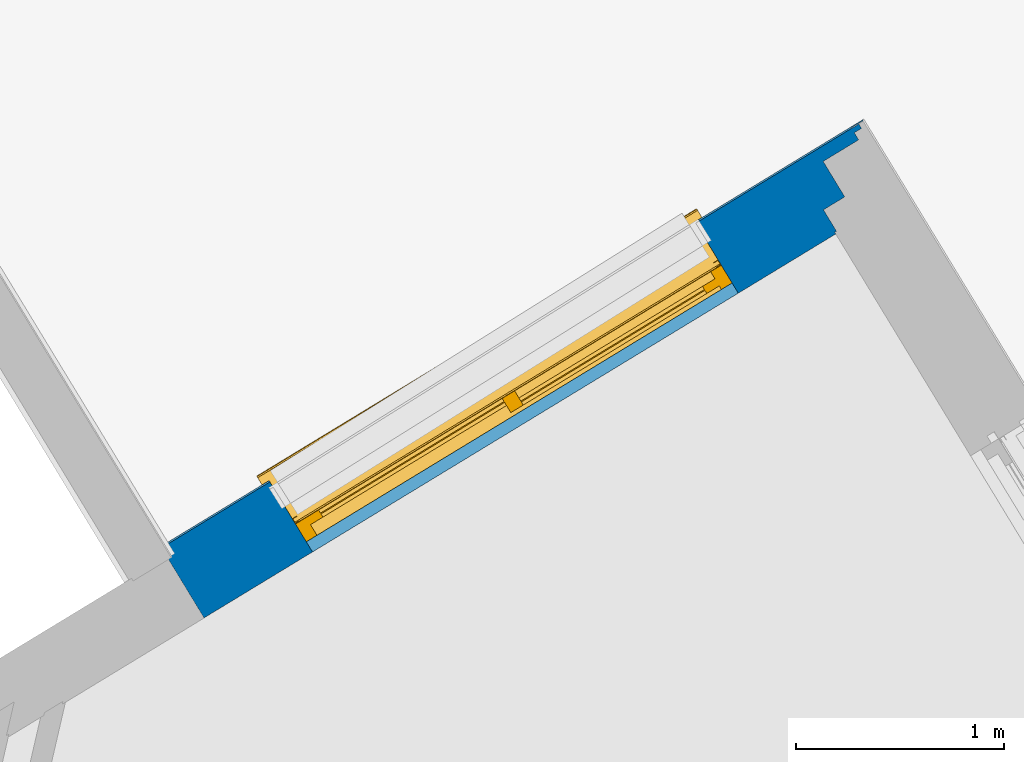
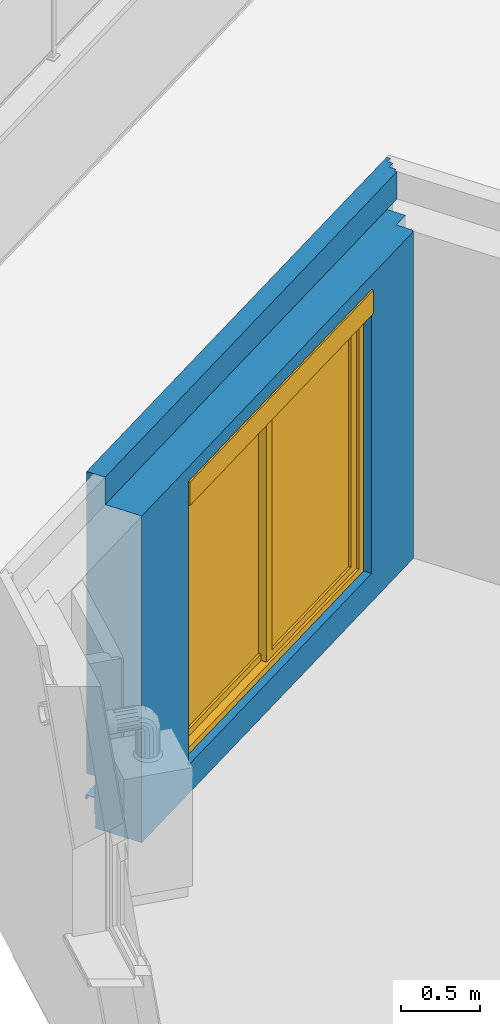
# One storey, part 31 of 91: 1 wall, 1 window, 1 opening.
"""IFC2X3 building model written with IfcOpenShell, lengths in metres."""

from ifc_helpers import new_model, entity, si_unit, converted_unit, derived_unit, money_unit, direction, frame, origin_with_axes, place, context, subcontext, project, spatial, open_shell, faceted_brep, surface_model, source, transform, mapped, material, material_list, type_object, element, fill, save


model = new_model("IFC2X3")

# Units and contexts
model_context = context("Model", 3, precision=1e-05, world=origin_with_axes(), true_north=direction((0.0, 1.0)))
body_context = subcontext(model_context, "Body", "Model", "MODEL_VIEW")
ifc_project = project(units=[si_unit("LENGTHUNIT", "METRE"), si_unit("AREAUNIT", "SQUARE_METRE"), si_unit("VOLUMEUNIT", "CUBIC_METRE"), converted_unit("PLANEANGLEUNIT", "DEGREE", entity("IfcPlaneAngleMeasure", 0.0174532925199), si_unit("PLANEANGLEUNIT", "RADIAN"), dimensions=[0, 0, 0, 0, 0, 0, 0]), si_unit("SOLIDANGLEUNIT", "STERADIAN"), money_unit("EUR"), converted_unit("TIMEUNIT", "Year", entity("IfcTimeMeasure", 31556926.0), si_unit("TIMEUNIT", "SECOND"), dimensions=[0, 0, 1, 0, 0, 0, 0]), si_unit("MASSUNIT", "GRAM", prefix="KILO"), si_unit("THERMODYNAMICTEMPERATUREUNIT", "DEGREE_CELSIUS"), si_unit("LUMINOUSINTENSITYUNIT", "LUMEN"), si_unit("ENERGYUNIT", "JOULE", prefix="MEGA"), derived_unit("THERMALCONDUCTANCEUNIT", [(si_unit("POWERUNIT", "WATT"), 1), (si_unit("LENGTHUNIT", "METRE"), -1), (si_unit("THERMODYNAMICTEMPERATUREUNIT", "KELVIN"), -1)]), derived_unit("SPECIFICHEATCAPACITYUNIT", [(si_unit("ENERGYUNIT", "JOULE"), 1), (si_unit("MASSUNIT", "GRAM", prefix="KILO"), -1), (si_unit("THERMODYNAMICTEMPERATUREUNIT", "KELVIN"), -1)]), derived_unit("MASSDENSITYUNIT", [(si_unit("MASSUNIT", "GRAM", prefix="KILO"), 1), (si_unit("VOLUMEUNIT", "CUBIC_METRE"), -1)])], contexts=[model_context])

# Site, building, storey
site_placement = place(None, origin_with_axes())
site = spatial("IfcSite", under=ifc_project, at=site_placement, Name="Site", CompositionType="ELEMENT")
building_placement = place(site_placement, origin_with_axes())
building = spatial("IfcBuilding", under=site, at=building_placement, Name="Bâtiment", CompositionType="ELEMENT")
storey_placement = place(building_placement, frame((0.0, 0.0, 5.44), z_axis=(0.0, 0.0, 1.0), x_axis=(1.0, 0.0, 0.0)))
storey = spatial("IfcBuildingStorey", under=building, at=storey_placement, Name="R+2", CompositionType="ELEMENT", Elevation=5.44)

# Wall, opening, window
ifc_material_1 = material(Name="Finition int - Plaque de plâtre")
ifc_material_2 = material(Name="Isolation - Polystyrène extrudé")
ifc_material_3 = material(Name="Bloc ELITHERM")
ifc_material_4 = material(Name="Isolation - Polystyrène expansé")
ifc_material_5 = material(Name="Mortier")
ifc_material_6 = material(Name="Béton cellulaire")
ifc_material_7 = material(Name="Etanchéité - Bitume")
ifc_material_8 = material(Name="Bois - Lattage")
ifc_material_9 = material(Name="Finition ext - Bardage bois")
ifc_material_10 = material(Name="Métal - Aluminium")
ifc_material_list = material_list([ifc_material_1, ifc_material_2, ifc_material_3, ifc_material_4, ifc_material_5, ifc_material_6, ifc_material_7, ifc_material_8, ifc_material_9, ifc_material_10])
wall_type = type_object("IfcWallType", Name="Mur ALKERN + planelle 21 BARDAGE TERRASSE 403 x 2720", PredefinedType="USERDEFINED")
wall_placement = place(storey_placement, frame((-2.41565138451, 20.3957772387, -3.1968383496e-10), z_axis=(0.0, 0.0, 1.0), x_axis=(-0.854539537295, -0.519386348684, 0.0)))
wall = element("IfcWall", 1, at=wall_placement, inside=storey, type_object=wall_type, material=ifc_material_list, Name="Mue bloc ALKERN isolé", ObjectType="SOLIDWALL", context=body_context, shape_type="Brep", body=[
    faceted_brep([(0.410000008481, 0.395000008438, 2.51000000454), (3.97122723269, 0.395000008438, 2.51000000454), (3.97122723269, 0.395000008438, 0.0), (0.410000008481, 0.395000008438, 3.1968383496e-10), (0.410000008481, 0.395000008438, 0.109999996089), (0.410000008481, 0.395000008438, 0.20000000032), (0.410000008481, 0.395000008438, 0.229999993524), (0.410000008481, 0.395000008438, 0.399999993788), (3.35945904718, 0.395000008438, 2.22), (3.35945904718, 0.395000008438, 2.4), (0.959459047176, 0.395000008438, 2.4), (0.959459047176, 0.395000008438, 2.22), (0.959459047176, 0.395000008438, 0.22), (3.35945904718, 0.395000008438, 0.22), (0.410000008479, 0.384999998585, 2.51000000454), (3.97122723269, 0.384999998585, 2.51000000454), (3.97122723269, 0.384999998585, 0.0), (0.410000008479, 0.384999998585, 3.1968383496e-10), (0.410000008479, 0.384999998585, 0.109999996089), (0.410000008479, 0.384999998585, 0.20000000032), (0.410000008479, 0.384999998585, 0.229999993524), (0.410000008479, 0.384999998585, 0.399999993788), (3.35945904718, 0.384999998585, 2.22), (3.35945904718, 0.384999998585, 2.4), (0.959459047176, 0.384999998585, 2.4), (0.959459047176, 0.384999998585, 2.22), (0.959459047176, 0.384999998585, 0.22), (3.35945904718, 0.384999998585, 0.22)], [[[0, 1, 2, 3, 4, 5, 6, 7], [8, 9, 10, 11, 12, 13]], [[14, 15, 1, 0]], [[2, 1, 15, 16]], [[3, 2, 16, 17]], [[4, 3, 17, 18]], [[5, 4, 18, 19]], [[6, 5, 19, 20]], [[7, 6, 20, 21]], [[0, 7, 21, 14]], [[9, 8, 22, 23]], [[10, 9, 23, 24]], [[11, 10, 24, 25]], [[11, 25, 26, 12]], [[12, 26, 27, 13]], [[22, 8, 13, 27]], [[21, 20, 19, 18, 17, 16, 15, 14], [23, 22, 27, 26, 25, 24]]]),
    faceted_brep([(0.959459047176, 0.264999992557, 0.22), (0.959459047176, 0.278311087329, 0.22), (0.959459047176, 0.384999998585, 0.22), (0.959459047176, 0.384999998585, 2.22), (0.959459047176, 0.264999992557, 2.22), (0.959459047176, 0.264999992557, 0.16), (0.959459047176, 0.278311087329, 0.16), (3.35945904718, 0.278311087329, 0.22), (3.35945904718, 0.384999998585, 0.22), (0.399999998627, 0.384999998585, 0.20000000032), (0.399999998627, 0.384999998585, 0.229999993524), (0.399999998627, 0.384999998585, 0.399999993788), (0.399999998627, 0.384999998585, 2.51000000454), (3.97122723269, 0.384999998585, 2.51000000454), (3.97122723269, 0.384999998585, 0.0), (0.399999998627, 0.384999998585, 3.1968383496e-10), (0.399999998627, 0.384999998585, 0.109999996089), (3.35945904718, 0.384999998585, 2.22), (3.35945904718, 0.384999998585, 2.4), (0.959459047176, 0.384999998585, 2.4), (0.959459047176, 0.264999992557, 2.4), (3.97122723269, 0.264999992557, 0.0), (3.97122723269, 0.264999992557, 2.51000000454), (0.399999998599, 0.264999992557, 2.51000000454), (0.399999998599, 0.264999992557, 0.399999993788), (0.399999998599, 0.264999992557, 0.229999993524), (0.399999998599, 0.264999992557, 0.20000000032), (0.399999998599, 0.264999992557, 0.109999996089), (0.399999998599, 0.264999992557, 3.1968383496e-10), (3.35945904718, 0.264999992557, 2.4), (3.35945904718, 0.264999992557, 2.22), (3.35945904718, 0.264999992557, 0.22), (3.35945904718, 0.264999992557, 0.16), (3.35945904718, 0.278311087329, 0.16)], [[[0, 1, 2, 3, 4]], [[1, 0, 5, 6]], [[1, 7, 8, 2]], [[9, 10, 11, 12, 13, 14, 15, 16], [3, 2, 8, 17, 18, 19]], [[19, 20, 4, 3]], [[21, 22, 23, 24, 25, 26, 27, 28], [5, 0, 4, 20, 29, 30, 31, 32]], [[5, 32, 33, 6]], [[7, 1, 6, 33]], [[7, 31, 30, 17, 8]], [[9, 26, 25, 10]], [[10, 25, 24, 11]], [[11, 24, 23, 12]], [[22, 13, 12, 23]], [[22, 21, 14, 13]], [[14, 21, 28, 15]], [[15, 28, 27, 16]], [[16, 27, 26, 9]], [[17, 30, 29, 18]], [[18, 29, 20, 19]], [[31, 7, 33, 32]]]),
    faceted_brep([(0.959459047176, 0.237311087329, 0.22), (0.959459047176, 0.26500000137, 0.22), (0.959459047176, 0.264999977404, 2.22), (0.959459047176, 0.237311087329, 2.22), (0.959459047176, 0.265000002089, 0.16), (0.959459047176, 0.0650000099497, 0.22), (0.959459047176, 0.0650000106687, 0.16), (3.97122723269, 0.264999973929, 0.0), (0.279999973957, 0.264999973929, 3.1968383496e-10), (0.279999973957, 0.265000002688, 0.109999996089), (0.279999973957, 0.265000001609, 0.20000000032), (0.279999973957, 0.26500000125, 0.229999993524), (0.279999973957, 0.264999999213, 0.399999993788), (0.279999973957, 0.264999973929, 2.50999999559), (3.97122723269, 0.264999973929, 2.50999999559), (3.35945904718, 0.265000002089, 0.16), (3.35945904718, 0.26500000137, 0.22), (3.35945904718, 0.264999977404, 2.22), (3.35945904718, 0.264999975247, 2.4), (0.959459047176, 0.264999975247, 2.4), (0.959459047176, 0.207311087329, 2.4), (0.959459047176, 0.207311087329, 2.22), (0.959459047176, 0.0649999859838, 2.22), (0.27999997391, 0.0650000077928, 0.399999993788), (0.27999997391, 0.0650000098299, 0.229999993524), (0.27999997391, 0.0650000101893, 0.20000000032), (0.27999997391, 0.0650000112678, 0.109999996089), (3.97122723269, 0.0650000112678, 0.109999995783), (3.97122723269, 0.0649999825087, 2.50999999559), (0.27999997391, 0.0649999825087, 2.50999999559), (3.35945904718, 0.0649999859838, 2.22), (3.35945904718, 0.0650000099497, 0.22), (3.35945904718, 0.0650000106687, 0.16), (3.97059984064, 0.0653923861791, 3.19684723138e-10), (0.27999997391, 0.0650201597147, 3.19684723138e-10), (3.97122723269, 0.0649999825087, 0.0), (3.97059981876, 0.0649999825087, 3.19684723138e-10), (0.27999997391, 0.0650201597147, 0.10000000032), (0.27999997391, 0.0650000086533, 0.10000000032), (0.279999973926, 0.133000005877, 2.50999999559), (3.97122723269, 0.133000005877, 2.50999999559), (3.35945904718, 0.237311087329, 0.22), (3.35945904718, 0.237311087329, 2.22), (3.35945904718, 0.207311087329, 2.22), (3.35945904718, 0.207311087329, 2.4), (3.97059981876, 0.0650000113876, 0.10000000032), (3.97059984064, 0.0653923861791, 0.10000000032)], [[[0, 1, 2, 3]], [[4, 1, 0, 5, 6]], [[7, 8, 9, 10, 11, 12, 13, 14], [15, 16, 17, 18, 19, 2, 1, 4]], [[20, 21, 3, 2, 19]], [[5, 0, 3, 21, 22]], [[23, 24, 25, 26, 27, 28, 29], [6, 5, 22, 30, 31, 32]], [[15, 4, 6, 32]], [[33, 34, 8, 7, 35, 36]], [[37, 38, 26, 9, 8, 34]], [[26, 25, 10, 9]], [[25, 24, 11, 10]], [[24, 23, 12, 11]], [[12, 23, 29, 39, 13]], [[14, 13, 39, 40]], [[14, 40, 28, 27, 35, 7]], [[41, 16, 15, 32, 31]], [[16, 41, 42, 17]], [[42, 43, 44, 18, 17]], [[18, 44, 20, 19]], [[21, 20, 44, 43]], [[43, 30, 22, 21]], [[45, 36, 35, 27, 26, 38]], [[40, 39, 29, 28]], [[41, 31, 30, 43, 42]], [[37, 34, 33, 46]], [[33, 36, 45, 46]], [[38, 37, 46, 45]]]),
    faceted_brep([(3.97122723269, 0.133000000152, 2.5200000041), (0.148000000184, 0.133000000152, 2.5200000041), (0.148000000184, 0.133000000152, 2.72000000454), (3.97122723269, 0.133000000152, 2.72000000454), (3.97122723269, 0.113000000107, 2.5200000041), (0.148000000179, 0.113000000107, 2.5200000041), (0.148000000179, 0.113000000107, 2.72000000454), (3.97122723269, 0.113000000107, 2.72000000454)], [[[0, 1, 2, 3]], [[4, 5, 1, 0]], [[5, 6, 2, 1]], [[3, 2, 6, 7]], [[4, 0, 3, 7]], [[7, 6, 5, 4]]]),
    faceted_brep([(0.148000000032, 0.133, 2.51000000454), (0.148000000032, 0.133, 2.52000000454), (3.97122723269, 0.133, 2.52000000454), (3.97122723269, 0.133, 2.51000000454), (0.148000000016, 0.065, 2.52000000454), (0.148000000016, 0.065, 2.51000000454), (3.97122723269, 0.065, 2.52000000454), (3.97122723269, 0.065, 2.51000000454)], [[[0, 1, 2, 3]], [[4, 1, 0, 5]], [[1, 4, 6, 2]], [[7, 3, 2, 6]], [[5, 0, 3, 7]], [[4, 5, 7, 6]]]),
    faceted_brep([(0.127999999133, 0.112999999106, 2.5200000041), (0.127999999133, 0.112999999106, 2.72000000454), (3.97122723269, 0.112999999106, 2.72000000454), (3.97122723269, 0.112999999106, 2.5200000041), (0.127999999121, 0.065, 2.72000000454), (0.127999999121, 0.065, 2.5200000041), (3.97122723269, 0.065, 2.72000000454), (3.97122723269, 0.065, 2.5200000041)], [[[0, 1, 2, 3]], [[4, 1, 0, 5]], [[1, 4, 6, 2]], [[6, 7, 3, 2]], [[5, 0, 3, 7]], [[4, 5, 7, 6]]]),
    faceted_brep([(0.959459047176, 0.0550000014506, 0.22), (0.959459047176, 0.0649999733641, 0.22), (0.959459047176, 0.0649999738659, 0.230000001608), (0.959459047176, 0.0550000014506, 0.230000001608), (0.959459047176, 0.0649999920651, 0.16), (0.959459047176, 0.0550000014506, 0.16), (3.35945904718, 0.0649999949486, 0.16), (3.35945904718, 0.0649999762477, 0.22), (3.35945904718, 0.0649999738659, 0.230000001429), (3.97122723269, 0.0649999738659, 0.230000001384), (3.97122723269, 0.0650000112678, 0.109999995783), (0.0800000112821, 0.0650000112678, 0.109999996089), (0.0799999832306, 0.0649999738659, 0.20000000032), (0.0799999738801, 0.0649999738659, 0.230000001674), (0.0799999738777, 0.0550000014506, 0.230000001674), (0.0799999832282, 0.0550000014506, 0.20000000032), (0.0800000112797, 0.0550000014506, 0.109999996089), (3.97122723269, 0.0550000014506, 0.109999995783), (3.97122723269, 0.0550000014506, 0.230000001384), (3.35945904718, 0.0550000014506, 0.230000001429), (3.35945904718, 0.0550000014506, 0.22), (3.35945904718, 0.0550000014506, 0.16)], [[[0, 1, 2, 3]], [[4, 1, 0, 5]], [[6, 7, 8, 9, 10, 11, 12, 13, 2, 1, 4]], [[2, 13, 14, 3]], [[5, 0, 3, 14, 15, 16, 17, 18, 19, 20, 21]], [[6, 4, 5, 21]], [[20, 7, 6, 21]], [[7, 20, 19, 8]], [[19, 18, 9, 8]], [[18, 17, 10, 9]], [[16, 11, 10, 17]], [[15, 12, 11, 16]], [[13, 12, 15, 14]]]),
    faceted_brep([(3.35945904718, 0.0649999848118, 0.399999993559), (3.35945904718, 0.0650000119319, 2.22), (0.959459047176, 0.0650000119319, 2.22), (0.959459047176, 0.0649999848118, 0.399999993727), (0.0799999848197, 0.0649999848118, 0.399999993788), (0.0800000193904, 0.0650000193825, 2.72000000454), (3.97122723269, 0.0650000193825, 2.72000000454), (3.97122723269, 0.0649999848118, 0.399999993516), (3.35945904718, 0.0600000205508, 0.399999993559), (3.35945904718, 0.0249999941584, 0.399999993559), (3.35945904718, 0.0249999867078, 2.22), (0.959459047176, 0.0249999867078, 2.22), (0.959459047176, 0.0249999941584, 0.399999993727), (0.959459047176, 0.0600000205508, 0.399999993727), (0.0799999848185, 0.0600000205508, 0.399999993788), (0.0799999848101, 0.0249999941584, 0.399999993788), (0.0800000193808, 0.0249999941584, 2.72000000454), (3.97122723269, 0.0249999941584, 2.72000000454), (3.97122723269, 0.0249999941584, 0.399999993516), (3.97122723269, 0.0600000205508, 0.399999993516)], [[[0, 1, 2, 3, 4, 5, 6, 7]], [[1, 0, 8, 9, 10]], [[2, 1, 10, 11]], [[3, 2, 11, 12, 13]], [[3, 13, 14, 4]], [[5, 4, 14, 15, 16]], [[5, 16, 17, 6]], [[6, 17, 18, 19, 7]], [[8, 0, 7, 19]], [[9, 8, 19, 18]], [[10, 9, 18, 17, 16, 15, 12, 11]], [[13, 12, 15, 14]]]),
    faceted_brep([(3.35945904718, 0.025, 0.40000000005), (3.35945904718, 0.025, 2.22), (0.959459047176, 0.025, 2.22), (0.959459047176, 0.025, 0.400000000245), (0.040000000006, 0.025, 0.40000000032), (0.040000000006, 0.025, 2.72000000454), (3.97122723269, 0.025, 2.72000000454), (3.97122723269, 0.025, 0.4), (3.35945904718, 0.0, 0.40000000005), (3.35945904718, 0.0, 2.22), (0.959459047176, 0.0, 2.22), (0.959459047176, 0.0, 0.400000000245), (0.04, 0.0, 0.40000000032), (0.04, 0.0, 2.72000000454), (3.97122723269, 0.0, 2.72000000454), (3.97122723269, 0.0, 0.4)], [[[0, 1, 2, 3, 4, 5, 6, 7]], [[1, 0, 8, 9]], [[2, 1, 9, 10]], [[3, 2, 10, 11]], [[3, 11, 12, 4]], [[13, 5, 4, 12]], [[5, 13, 14, 6]], [[14, 15, 7, 6]], [[8, 0, 7, 15]], [[9, 8, 15, 14, 13, 12, 11, 10]]]),
    faceted_brep([(3.35945904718, -0.00268891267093, 0.200000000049), (3.35945904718, -0.00268891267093, 0.22), (3.35945904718, -0.00268891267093, 0.230000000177), (3.97122723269, -0.00268891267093, 0.23), (3.97122723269, -0.00268891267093, 0.2), (3.35945904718, -0.00768891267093, 0.200000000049), (3.35945904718, -0.00768891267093, 0.22), (3.35945904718, -0.00768891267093, 0.235000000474), (3.35945904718, 0.06, 0.235000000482), (3.35945904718, 0.06, 0.40000000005), (3.35945904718, 0.065, 0.40000000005), (3.35945904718, 0.065, 0.230000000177), (3.35945904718, 0.0550000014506, 0.230000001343), (3.97122723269, 0.0550000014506, 0.230000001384), (3.97122723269, 0.06, 0.4), (3.97122723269, 0.06, 0.235), (3.97122723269, -0.00768891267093, 0.235), (3.97122723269, -0.00768891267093, 0.2), (3.97122723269, 0.065, 0.23), (3.97122723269, 0.065, 0.4)], [[[0, 1, 2, 3, 4]], [[1, 0, 5, 6, 7, 8, 9, 10, 11, 12, 2]], [[12, 13, 3, 2]], [[14, 15, 16, 17, 4, 3, 13, 18, 19]], [[5, 0, 4, 17]], [[6, 5, 17, 16, 7]], [[7, 16, 15, 8]], [[8, 15, 14, 9]], [[9, 14, 19, 10]], [[10, 19, 18, 11]], [[11, 18, 13, 12]]]),
    faceted_brep([(0.959459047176, -0.00768891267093, 0.22), (0.959459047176, -0.00768891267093, 0.200000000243), (0.959459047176, -0.00268891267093, 0.200000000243), (0.959459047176, -0.00268891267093, 0.22), (0.959459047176, -0.00268891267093, 0.23000000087), (0.959459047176, 0.0550000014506, 0.230000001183), (0.959459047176, 0.065, 0.23000000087), (0.959459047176, 0.065, 0.400000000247), (0.959459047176, 0.06, 0.400000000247), (0.959459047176, 0.06, 0.235000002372), (0.959459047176, -0.00768891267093, 0.235000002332), (0.0799999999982, -0.00768891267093, 0.235000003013), (0.0799999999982, -0.00768891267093, 0.230000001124), (0.0700000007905, -0.00768891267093, 0.230000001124), (0.0123110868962, -0.00768891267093, 0.229999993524), (0.0123110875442, -0.00768891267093, 0.20000000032), (0.0123110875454, -0.00268891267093, 0.20000000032), (0.0123110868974, -0.00268891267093, 0.229999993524), (0.0700000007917, -0.00268891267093, 0.230000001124), (0.0799999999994, -0.00268891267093, 0.230000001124), (0.0800000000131, 0.0550000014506, 0.230000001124), (0.0800000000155, 0.065, 0.230000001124), (0.0800000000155, 0.065, 0.40000000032), (0.0800000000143, 0.06, 0.40000000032), (0.0800000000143, 0.06, 0.235000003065)], [[[0, 1, 2, 3, 4, 5, 6, 7, 8, 9, 10]], [[1, 0, 10, 11, 12, 13, 14, 15]], [[2, 1, 15, 16]], [[3, 2, 16, 17, 18, 19, 4]], [[4, 19, 20, 5]], [[5, 20, 21, 6]], [[6, 21, 22, 7]], [[7, 22, 23, 8]], [[8, 23, 24, 9]], [[9, 24, 11, 10]], [[21, 20, 19, 12, 11, 24, 23, 22]], [[13, 12, 19, 18]], [[14, 13, 18, 17]], [[16, 15, 14, 17]]]),
])
opening_placement = place(wall_placement, frame((2.15945904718, 0.0, 0.22), z_axis=(0.0, 0.0, 1.0), x_axis=(1.0, 0.0, 0.0)))
opening = element("IfcOpeningElement", 2, at=opening_placement, cuts=wall, Name="MEN 72", context=body_context, shape_type="Brep", body=[
    faceted_brep([(1.2, 0.237311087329, 0.0), (-1.2, 0.237311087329, 0.0), (-1.2, 0.885000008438, 0.0), (1.2, 0.885000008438, 0.0), (1.2, 0.237311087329, 2.0), (-1.2, 0.237311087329, 2.0), (-1.2, 0.885000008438, 2.0), (1.2, 0.885000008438, 2.0)], [[[0, 1, 2, 3]], [[0, 4, 5, 1]], [[1, 5, 6, 2]], [[3, 2, 6, 7]], [[4, 0, 3, 7]], [[5, 4, 7, 6]]]),
    faceted_brep([(1.2, 0.237311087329, 0.0), (1.2, 0.237311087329, 2.0), (1.2, -0.41037783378, 2.0), (1.2, -0.41037783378, 0.0), (-1.2, 0.237311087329, 0.0), (-1.2, 0.237311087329, 2.0), (-1.2, -0.41037783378, 2.0), (-1.2, -0.41037783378, 0.0)], [[[0, 1, 2, 3]], [[0, 4, 5, 1]], [[1, 5, 6, 2]], [[3, 2, 6, 7]], [[4, 0, 3, 7]], [[5, 4, 7, 6]]]),
    faceted_brep([(1.2, 0.237311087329, 0.0), (1.2, 0.237311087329, 2.0), (1.2, -0.41037783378, 2.0), (1.2, -0.41037783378, 0.0), (-1.2, 0.237311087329, 0.0), (-1.2, 0.237311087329, 2.0), (-1.2, -0.41037783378, 2.0), (-1.2, -0.41037783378, 0.0)], [[[0, 1, 2, 3]], [[0, 4, 5, 1]], [[1, 5, 6, 2]], [[3, 2, 6, 7]], [[4, 0, 3, 7]], [[5, 4, 7, 6]]]),
    faceted_brep([(1.2, 0.207311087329, 2.0), (-1.2, 0.207311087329, 2.0), (-1.2, 0.855000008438, 2.0), (1.2, 0.855000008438, 2.0), (1.2, 0.207311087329, 2.18), (-1.2, 0.207311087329, 2.18), (-1.2, 0.855000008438, 2.18), (1.2, 0.855000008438, 2.18)], [[[0, 1, 2, 3]], [[0, 4, 5, 1]], [[1, 5, 6, 2]], [[3, 2, 6, 7]], [[4, 0, 3, 7]], [[5, 4, 7, 6]]]),
    faceted_brep([(1.2, 0.278311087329, 0.0), (-1.2, 0.278311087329, 0.0), (-1.2, -0.36937783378, 0.0), (1.2, -0.36937783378, 0.0), (1.2, 0.278311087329, -0.06), (-1.2, 0.278311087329, -0.06), (-1.2, -0.36937783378, -0.06), (1.2, -0.36937783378, -0.06)], [[[0, 1, 2, 3]], [[0, 4, 5, 1]], [[1, 5, 6, 2]], [[3, 2, 6, 7]], [[4, 0, 3, 7]], [[5, 4, 7, 6]]]),
])
window_style = type_object("IfcWindowStyle", Name="Baie générique 2017 v2", ConstructionType="NOTDEFINED", OperationType="NOTDEFINED", ParameterTakesPrecedence=False, Sizeable=False)
shared_shape = source(origin_with_axes(), body_context, "Body", "SurfaceModel", [
    faceted_brep([(1.2, 0.1, 0.0), (1.2, 0.0, 0.0), (-1.2, 0.0, 0.0), (-1.2, 0.1, 0.0), (1.2, 0.1, 2.0), (1.2, 0.0, 2.0), (-1.2, 0.0, 2.0), (1.14, 0.0, 0.05), (-1.14, 0.0, 0.05), (-1.14, 0.0, 1.95), (1.14, 0.0, 1.95), (-1.2, 0.1, 2.0), (1.14, 0.1, 0.05), (1.14, 0.1, 1.95), (-1.14, 0.1, 1.95), (-1.14, 0.1, 0.05)], [[[0, 1, 2, 3]], [[4, 5, 1, 0]], [[1, 5, 6, 2], [7, 8, 9, 10]], [[3, 2, 6, 11]], [[0, 3, 11, 4], [12, 13, 14, 15]], [[11, 6, 5, 4]], [[15, 8, 7, 12]], [[14, 9, 8, 15]], [[13, 10, 9, 14]], [[12, 7, 10, 13]]]),
    faceted_brep([(1.14, 0.04, 0.05), (-0.035, 0.04, 0.05), (-0.035, 0.04, 1.95), (1.14, 0.04, 1.95), (0.035, 0.04, 1.88), (0.035, 0.04, 0.1), (1.07, 0.04, 0.1), (1.07, 0.04, 1.88), (-0.035, 0.02, 0.05), (1.14, 0.02, 0.05), (1.14, 0.0, 0.05), (-0.035, 0.0, 0.05), (-0.035, 0.02, 1.95), (-0.035, 0.0, 1.95), (1.14, 0.0, 1.95), (1.14, 0.02, 1.95), (0.035, 0.0, 1.88), (0.035, 0.0, 0.1), (1.07, 0.0, 0.1), (1.07, 0.0, 1.88)], [[[0, 1, 2, 3], [4, 5, 6, 7]], [[8, 1, 0, 9, 10, 11]], [[12, 2, 1, 8, 11, 13]], [[13, 14, 15, 3, 2, 12]], [[14, 10, 9, 0, 3, 15]], [[4, 16, 17, 5]], [[17, 18, 6, 5]], [[18, 19, 7, 6]], [[7, 19, 16, 4]], [[13, 11, 10, 14], [17, 16, 19, 18]]]),
    surface_model("IfcShellBasedSurfaceModel", [(1.14, 0.04, 0.05), (-0.035, 0.04, 0.05), (-0.035, 0.04, 1.95), (1.14, 0.04, 1.95), (1.07, 0.04, 0.1), (1.07, 0.04, 1.88), (0.035, 0.04, 1.88), (0.035, 0.04, 0.1)], [open_shell([[[0, 1, 2, 3], [4, 5, 6, 7]]])]),
    surface_model("IfcShellBasedSurfaceModel", [(1.14, 0.0, 0.05), (-0.035, 0.0, 0.05), (-0.035, 0.0, 1.95), (1.14, 0.0, 1.95), (1.07, 0.0, 0.1), (1.07, 0.0, 1.88), (0.035, 0.0, 1.88), (0.035, 0.0, 0.1)], [open_shell([[[0, 1, 2, 3], [4, 5, 6, 7]]])]),
    faceted_brep([(1.07, 0.0225, 0.1), (1.07, 0.0175, 0.1), (0.035, 0.0175, 0.1), (0.035, 0.0225, 0.1), (1.07, 0.0225, 1.88), (1.07, 0.0175, 1.88), (0.035, 0.0175, 1.88), (0.035, 0.0225, 1.88)], [[[0, 1, 2, 3]], [[4, 5, 1, 0]], [[1, 5, 6, 2]], [[3, 2, 6, 7]], [[0, 3, 7, 4]], [[7, 6, 5, 4]]]),
    faceted_brep([(0.035, 0.08, 0.05), (-1.14, 0.08, 0.05), (-1.14, 0.08, 1.95), (0.035, 0.08, 1.95), (-1.07, 0.08, 1.88), (-1.07, 0.08, 0.1), (-0.035, 0.08, 0.1), (-0.035, 0.08, 1.88), (-1.14, 0.06, 0.05), (0.035, 0.06, 0.05), (0.035, 0.04, 0.05), (-1.14, 0.04, 0.05), (-1.14, 0.06, 1.95), (-1.14, 0.04, 1.95), (0.035, 0.04, 1.95), (0.035, 0.06, 1.95), (-1.07, 0.04, 1.88), (-1.07, 0.04, 0.1), (-0.035, 0.04, 0.1), (-0.035, 0.04, 1.88)], [[[0, 1, 2, 3], [4, 5, 6, 7]], [[8, 1, 0, 9, 10, 11]], [[12, 2, 1, 8, 11, 13]], [[13, 14, 15, 3, 2, 12]], [[14, 10, 9, 0, 3, 15]], [[4, 16, 17, 5]], [[17, 18, 6, 5]], [[18, 19, 7, 6]], [[7, 19, 16, 4]], [[13, 11, 10, 14], [17, 16, 19, 18]]]),
    surface_model("IfcShellBasedSurfaceModel", [(0.035, 0.08, 0.05), (-1.14, 0.08, 0.05), (-1.14, 0.08, 1.95), (0.035, 0.08, 1.95), (-0.035, 0.08, 0.1), (-0.035, 0.08, 1.88), (-1.07, 0.08, 1.88), (-1.07, 0.08, 0.1)], [open_shell([[[0, 1, 2, 3], [4, 5, 6, 7]]])]),
    surface_model("IfcShellBasedSurfaceModel", [(0.035, 0.04, 0.05), (-1.14, 0.04, 0.05), (-1.14, 0.04, 1.95), (0.035, 0.04, 1.95), (-0.035, 0.04, 0.1), (-0.035, 0.04, 1.88), (-1.07, 0.04, 1.88), (-1.07, 0.04, 0.1)], [open_shell([[[0, 1, 2, 3], [4, 5, 6, 7]]])]),
    faceted_brep([(-0.035, 0.0625, 0.1), (-0.035, 0.0575, 0.1), (-1.07, 0.0575, 0.1), (-1.07, 0.0625, 0.1), (-0.035, 0.0625, 1.88), (-0.035, 0.0575, 1.88), (-1.07, 0.0575, 1.88), (-1.07, 0.0625, 1.88)], [[[0, 1, 2, 3]], [[4, 5, 1, 0]], [[1, 5, 6, 2]], [[3, 2, 6, 7]], [[0, 3, 7, 4]], [[7, 6, 5, 4]]]),
    faceted_brep([(1.2, -0.03, 0.0), (1.2, -0.03, 2.0), (1.175, -0.03, 2.0), (1.175, -0.03, 0.0), (1.2, -0.002, 0.0), (1.2, -0.002, 2.0), (1.175, -0.002, 2.0), (1.175, -0.004, 2.0), (1.198, -0.004, 2.0), (1.198, -0.028, 2.0), (1.175, -0.028, 2.0), (1.175, -0.028, 0.0), (1.198, -0.028, 0.0), (1.198, -0.004, 0.0), (1.175, -0.004, 0.0), (1.175, -0.002, 0.0)], [[[0, 1, 2, 3]], [[4, 5, 1, 0]], [[1, 5, 6, 7, 8, 9, 10, 2]], [[3, 2, 10, 11]], [[0, 3, 11, 12, 13, 14, 15, 4]], [[15, 6, 5, 4]], [[14, 7, 6, 15]], [[13, 8, 7, 14]], [[12, 9, 8, 13]], [[11, 10, 9, 12]]]),
    faceted_brep([(-1.2, -0.03, 0.0), (-1.175, -0.03, 0.0), (-1.175, -0.03, 2.0), (-1.2, -0.03, 2.0), (-1.2, -0.002, 0.0), (-1.175, -0.002, 0.0), (-1.175, -0.004, 0.0), (-1.198, -0.004, 0.0), (-1.198, -0.028, 0.0), (-1.175, -0.028, 0.0), (-1.175, -0.028, 2.0), (-1.198, -0.028, 2.0), (-1.198, -0.004, 2.0), (-1.175, -0.004, 2.0), (-1.175, -0.002, 2.0), (-1.2, -0.002, 2.0)], [[[0, 1, 2, 3]], [[0, 4, 5, 6, 7, 8, 9, 1]], [[1, 9, 10, 2]], [[3, 2, 10, 11, 12, 13, 14, 15]], [[4, 0, 3, 15]], [[5, 4, 15, 14]], [[6, 5, 14, 13]], [[7, 6, 13, 12]], [[8, 7, 12, 11]], [[9, 8, 11, 10]]]),
    faceted_brep([(-1.198, -0.028, 2.0), (-1.198, -0.028, 2.178), (1.198, -0.028, 2.178), (1.198, -0.028, 2.0), (-1.198, -0.03, 2.0), (-1.198, -0.03, 2.18), (-1.198, 0.17, 2.18), (-1.198, 0.17, 2.0), (-1.198, 0.168, 2.0), (-1.198, 0.168, 2.178), (1.198, 0.168, 2.178), (1.198, 0.168, 2.0), (1.198, 0.17, 2.0), (1.198, 0.17, 2.18), (1.198, -0.03, 2.18), (1.198, -0.03, 2.0)], [[[0, 1, 2, 3]], [[0, 4, 5, 6, 7, 8, 9, 1]], [[1, 9, 10, 2]], [[3, 2, 10, 11, 12, 13, 14, 15]], [[4, 0, 3, 15]], [[5, 4, 15, 14]], [[6, 5, 14, 13]], [[7, 6, 13, 12]], [[8, 7, 12, 11]], [[9, 8, 11, 10]]]),
    faceted_brep([(-1.198, 0.0724697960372, 2.07436337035), (-1.198, 0.0555495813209, 2.07050144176), (-1.198, 0.041980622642, 2.08132232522), (-1.198, 0.041980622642, 2.09867767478), (-1.198, 0.0555495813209, 2.10949855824), (-1.198, 0.0724697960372, 2.10563662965), (-1.198, 0.08, 2.09), (1.198, 0.0724697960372, 2.07436337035), (1.198, 0.0555495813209, 2.07050144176), (1.198, 0.041980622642, 2.08132232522), (1.198, 0.041980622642, 2.09867767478), (1.198, 0.0555495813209, 2.10949855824), (1.198, 0.0724697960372, 2.10563662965), (1.198, 0.08, 2.09)], [[[0, 1, 2, 3, 4, 5, 6]], [[1, 0, 7, 8]], [[2, 1, 8, 9]], [[3, 2, 9, 10]], [[4, 3, 10, 11]], [[5, 4, 11, 12]], [[6, 5, 12, 13]], [[0, 6, 13, 7]], [[7, 13, 12, 11, 10, 9, 8]]]),
    faceted_brep([(-1.188, 0.130275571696, 2.05615706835), (-1.188, 0.108632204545, 2.02901714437), (-1.188, 0.0773566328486, 2.01395562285), (-1.188, 0.0426433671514, 2.01395562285), (-1.188, 0.011367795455, 2.02901714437), (-1.188, -0.0102755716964, 2.05615706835), (-1.188, -0.018, 2.09), (-1.188, -0.0102755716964, 2.12384293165), (-1.188, 0.011367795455, 2.15098285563), (-1.188, 0.0426433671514, 2.16604437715), (-1.188, 0.0773566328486, 2.16604437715), (-1.188, 0.108632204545, 2.15098285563), (-1.188, 0.130275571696, 2.12384293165), (-1.188, 0.138, 2.09), (1.188, 0.130275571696, 2.05615706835), (1.188, 0.108632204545, 2.02901714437), (1.188, 0.0773566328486, 2.01395562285), (1.188, 0.0426433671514, 2.01395562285), (1.188, 0.011367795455, 2.02901714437), (1.188, -0.0102755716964, 2.05615706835), (1.188, -0.018, 2.09), (1.188, -0.0102755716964, 2.12384293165), (1.188, 0.011367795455, 2.15098285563), (1.188, 0.0426433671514, 2.16604437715), (1.188, 0.0773566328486, 2.16604437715), (1.188, 0.108632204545, 2.15098285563), (1.188, 0.130275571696, 2.12384293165), (1.188, 0.138, 2.09)], [[[0, 1, 2, 3, 4, 5, 6, 7, 8, 9, 10, 11, 12, 13]], [[1, 0, 14, 15]], [[2, 1, 15, 16]], [[3, 2, 16, 17]], [[4, 3, 17, 18]], [[5, 4, 18, 19]], [[6, 5, 19, 20]], [[7, 6, 20, 21]], [[8, 7, 21, 22]], [[9, 8, 22, 23]], [[10, 9, 23, 24]], [[11, 10, 24, 25]], [[12, 11, 25, 26]], [[13, 12, 26, 27]], [[0, 13, 27, 14]], [[14, 27, 26, 25, 24, 23, 22, 21, 20, 19, 18, 17, 16, 15]]]),
    faceted_brep([(-1.2, 0.17, 2.0), (-1.2, 0.17, 2.18), (-1.198, 0.17, 2.18), (-1.198, 0.17, 2.0), (-1.2, -0.03, 2.0), (-1.2, -0.03, 2.18), (-1.198, -0.03, 2.18), (-1.198, -0.03, 2.0)], [[[0, 1, 2, 3]], [[0, 4, 5, 1]], [[1, 5, 6, 2]], [[3, 2, 6, 7]], [[4, 0, 3, 7]], [[5, 4, 7, 6]]]),
    faceted_brep([(1.198, 0.17, 2.0), (1.198, 0.17, 2.18), (1.2, 0.17, 2.18), (1.2, 0.17, 2.0), (1.198, -0.03, 2.0), (1.198, -0.03, 2.18), (1.2, -0.03, 2.18), (1.2, -0.03, 2.0)], [[[0, 1, 2, 3]], [[0, 4, 5, 1]], [[1, 5, 6, 2]], [[3, 2, 6, 7]], [[4, 0, 3, 7]], [[5, 4, 7, 6]]]),
    faceted_brep([(-1.198, -0.004, 2.0), (-1.198, 0.168, 2.0), (1.198, 0.168, 2.0), (1.198, -0.004, 2.0), (-1.198, -0.004, 2.002), (-1.198, 0.168, 2.002), (1.198, 0.168, 2.002), (1.198, -0.004, 2.002)], [[[0, 1, 2, 3]], [[0, 4, 5, 1]], [[1, 5, 6, 2]], [[3, 2, 6, 7]], [[4, 0, 3, 7]], [[5, 4, 7, 6]]]),
    faceted_brep([(-1.188, -0.006, 2.0), (-1.188, -0.006, 2.09), (1.188, -0.006, 2.09), (1.188, -0.006, 2.0), (-1.188, -0.026, 2.0), (-1.188, -0.026, 2.09), (1.188, -0.026, 2.09), (1.188, -0.026, 2.0)], [[[0, 1, 2, 3]], [[1, 0, 4, 5]], [[2, 1, 5, 6]], [[3, 2, 6, 7]], [[4, 0, 3, 7]], [[5, 4, 7, 6]]]),
    faceted_brep([(-1.2, -0.00167949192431, -0.01), (1.2, -0.00167949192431, -0.01), (1.2, 0.0, -0.00373205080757), (1.24, 0.0, -0.00373205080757), (1.24, 0.001, 0.0), (-1.24, 0.001, 0.0), (-1.24, 0.0, -0.00373205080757), (-1.2, 0.0, -0.00373205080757), (-1.2, -0.009, -0.0173205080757), (1.2, -0.009, -0.0173205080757), (1.2, -0.245, -0.02), (1.2, -0.245, -0.06), (1.2, 0.0, -0.06), (1.2, -0.019, -0.02), (1.24, 0.0, -0.06), (1.24, 0.041, -0.06), (1.24, 0.041, 0.0), (-1.24, 0.041, 0.0), (-1.24, 0.041, -0.06), (-1.24, 0.0, -0.06), (-1.2, 0.0, -0.06), (-1.2, -0.245, -0.06), (-1.2, -0.245, -0.02), (-1.2, -0.019, -0.02), (1.24, -0.245, -0.02), (1.24, -0.245, -0.06), (1.24, -0.275, -0.06), (-1.24, -0.275, -0.06), (-1.24, -0.245, -0.06), (-1.24, -0.245, -0.02), (-1.24, -0.285, -0.02), (1.24, -0.285, -0.02), (1.24, -0.295, -0.03), (1.24, -0.295, -0.06), (1.24, -0.285, -0.06), (1.24, -0.285, -0.05), (1.24, -0.275, -0.05), (1.24, -0.292071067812, -0.0229289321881), (-1.24, -0.275, -0.05), (-1.24, -0.285, -0.05), (-1.24, -0.285, -0.06), (-1.24, -0.295, -0.06), (-1.24, -0.295, -0.03), (-1.24, -0.292071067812, -0.0229289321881)], [[[0, 1, 2, 3, 4, 5, 6, 7]], [[8, 9, 1, 0]], [[10, 11, 12, 2, 1, 9, 13]], [[3, 2, 12, 14]], [[4, 3, 14, 15, 16]], [[16, 17, 5, 4]], [[6, 5, 17, 18, 19]], [[19, 20, 7, 6]], [[7, 20, 21, 22, 23, 8, 0]], [[23, 13, 9, 8]], [[10, 24, 25, 11]], [[21, 20, 19, 18, 15, 14, 12, 11, 25, 26, 27, 28]], [[22, 29, 30, 31, 24, 10, 13, 23]], [[15, 18, 17, 16]], [[22, 21, 28, 29]], [[32, 33, 34, 35, 36, 26, 25, 24, 31, 37]], [[36, 38, 27, 26]], [[28, 27, 38, 39, 40, 41, 42, 43, 30, 29]], [[31, 30, 43, 37]], [[32, 42, 41, 33]], [[33, 41, 40, 34]], [[34, 40, 39, 35]], [[35, 39, 38, 36]], [[37, 43, 42, 32]]]),
])
window_placement = place(opening_placement, frame((-1.2, 0.0, 0.0), z_axis=(0.0, 0.0, 1.0), x_axis=(1.0, 0.0, 0.0)))
window = element("IfcWindow", 3, at=window_placement, inside=storey, type_object=window_style, Name="MEN 72", ObjectType="WINDOW", OverallHeight=2.0, OverallWidth=2.4, context=body_context, shape_type="MappedRepresentation", body=[
    mapped(shared_shape, transform((1.2, 0.237311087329, 0.0))),
])
fill(opening, window)

save(model, "model.ifc")
